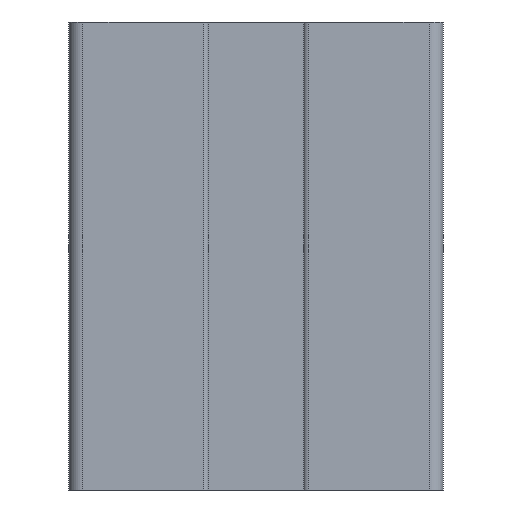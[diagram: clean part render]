
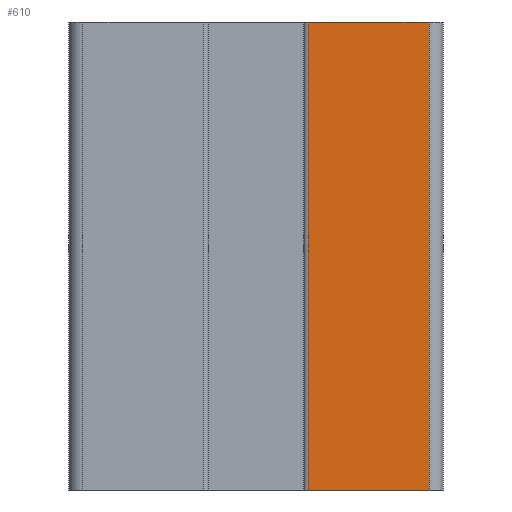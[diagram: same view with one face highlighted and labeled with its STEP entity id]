
A CAD part, front view. The second image highlights one B-rep face of the part: STEP entity #610.
In plain terms, the highlighted planar face has unit normal (0, -1, 0).
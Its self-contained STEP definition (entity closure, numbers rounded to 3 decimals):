
#610=ADVANCED_FACE('',(#1348),#1349,.F.);
#1348=FACE_OUTER_BOUND('',#2211,.T.);
#1349=PLANE('',#2212);
#2211=EDGE_LOOP('',(#4099,#4100,#4101,#4102));
#2212=AXIS2_PLACEMENT_3D('',#4103,#4104,#4105);
#4099=ORIENTED_EDGE('',*,*,#5835,.T.);
#4100=ORIENTED_EDGE('',*,*,#6219,.F.);
#4101=ORIENTED_EDGE('',*,*,#6220,.F.);
#4102=ORIENTED_EDGE('',*,*,#6221,.T.);
#4103=CARTESIAN_POINT('',(25.6,0.,50.0));
#4104=DIRECTION('',(0.0,1.0,0.0));
#4105=DIRECTION('',(0.0,0.0,1.0));
#5835=EDGE_CURVE('',#7267,#7265,#7268,.T.);
#6219=EDGE_CURVE('',#7842,#7265,#7843,.T.);
#6220=EDGE_CURVE('',#7844,#7842,#7845,.T.);
#6221=EDGE_CURVE('',#7844,#7267,#7846,.T.);
#7265=VERTEX_POINT('',#9199);
#7267=VERTEX_POINT('',#9201);
#7268=LINE('',#9202,#9203);
#7842=VERTEX_POINT('',#9970);
#7843=LINE('',#9971,#9972);
#7844=VERTEX_POINT('',#9973);
#7845=LINE('',#9974,#9975);
#7846=LINE('',#9976,#9977);
#9199=CARTESIAN_POINT('',(38.5,0.,0.0));
#9201=CARTESIAN_POINT('',(25.6,0.,0.0));
#9202=CARTESIAN_POINT('',(25.6,0.,0.0));
#9203=VECTOR('',#10979,1.0);
#9970=CARTESIAN_POINT('',(38.5,0.,50.0));
#9971=CARTESIAN_POINT('',(38.5,0.,50.0));
#9972=VECTOR('',#11524,1.0);
#9973=CARTESIAN_POINT('',(25.6,0.,50.0));
#9974=CARTESIAN_POINT('',(25.6,0.,50.0));
#9975=VECTOR('',#11525,1.0);
#9976=CARTESIAN_POINT('',(25.6,0.,50.0));
#9977=VECTOR('',#11526,1.0);
#10979=DIRECTION('',(1.0,0.0,0.0));
#11524=DIRECTION('',(0.0,0.0,-1.0));
#11525=DIRECTION('',(1.0,0.0,0.0));
#11526=DIRECTION('',(0.0,0.0,-1.0));
